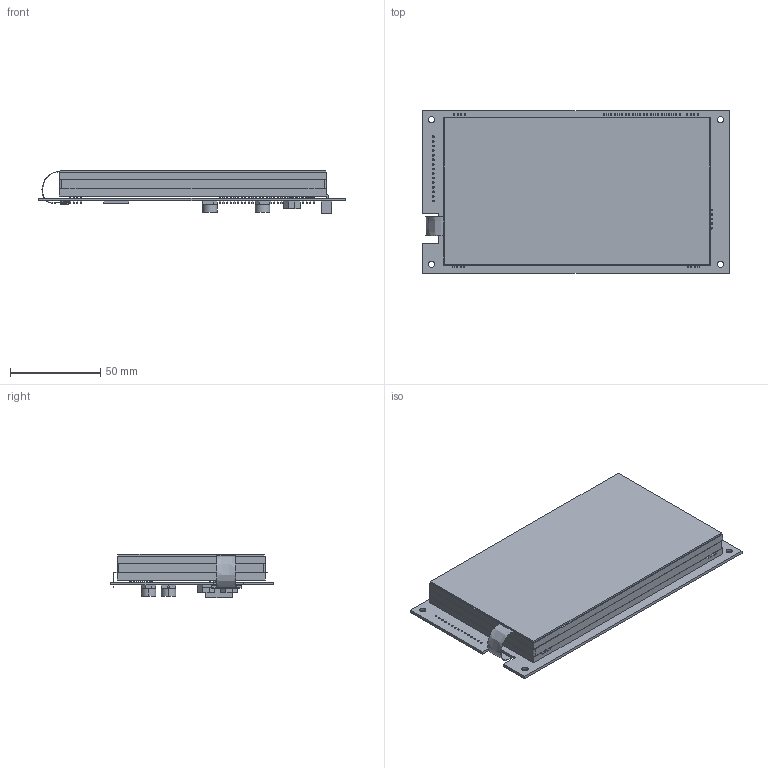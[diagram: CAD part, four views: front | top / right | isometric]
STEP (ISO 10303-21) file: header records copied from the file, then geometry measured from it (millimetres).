
FILE_DESCRIPTION((''),'2;1');
FILE_NAME('GU256X128D-D903M_ASM','2016-06-08T',('samx'),(''),'PRO/ENGINEER BY PARAMETRIC TECHNOLOGY CORPORATION, 2010280','PRO/ENGINEER BY PARAMETRIC TECHNOLOGY CORPORATION, 2010280','');
FILE_SCHEMA(('CONFIG_CONTROL_DESIGN'));
Products named in the file (4): GU256X128D-D903M; IRISO_IMSA-9631S-20Y800; JST_B5B-XH-A; GU256X128D-D903M_ASM
Assembly tree (3 placements, depth 2):
  GU256X128D-D903M_ASM
    GU256X128D-D903M
    IRISO_IMSA-9631S-20Y800
    JST_B5B-XH-A
Bounding box: 170 x 90 x 23.94 mm (x, y, z)
Volume: 150894.3 mm3; surface area: 96847.1 mm2
Topology: 4 solids, 4 shells, 2308 faces, 8361 edges, 6617 vertices
Faces by surface type: plane 1969, cylinder 330, sphere 5, extrusion 2, torus 2
Entity records: 86221 total; most frequent: CARTESIAN_POINT 15989, ORIENTED_EDGE 14882, DIRECTION 13560, VECTOR 7666, LINE 7664, EDGE_CURVE 7441, VERTEX_POINT 4787, AXIS2_PLACEMENT_3D 2947
